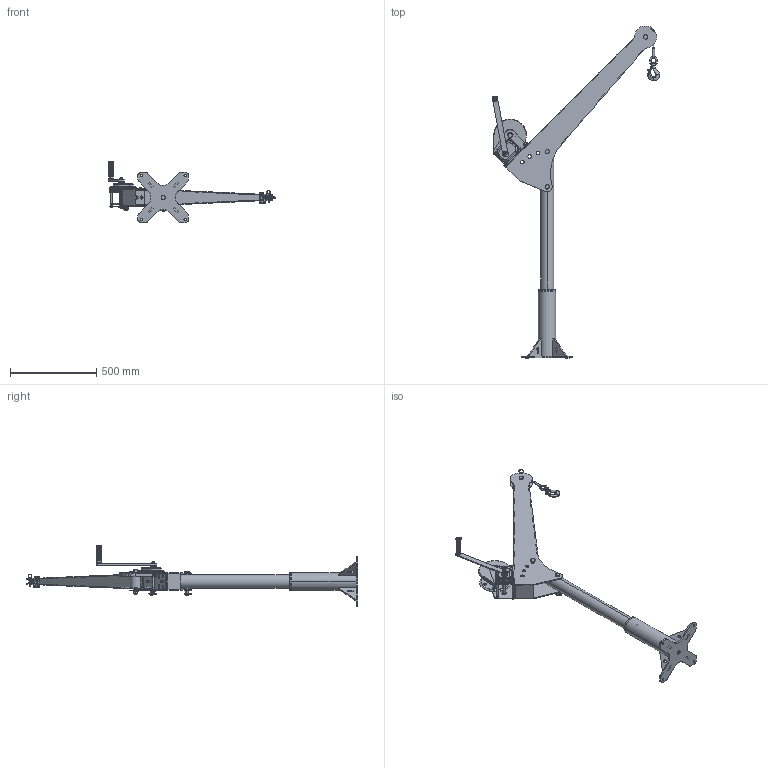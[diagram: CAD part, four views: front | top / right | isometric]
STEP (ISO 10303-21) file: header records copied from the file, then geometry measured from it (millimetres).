
FILE_DESCRIPTION (( 'STEP AP214' ), '1' );
FILE_NAME ('OZSS850DAV.STEP', '2026-05-13T14:00:37', ( '' ), ( '' ), 'SwSTEP 2.0', 'SolidWorks 2023', '' );
FILE_SCHEMA (( 'AUTOMOTIVE_DESIGN' ));
Length unit declared in the file: inch
Products named in the file (28): 366-0281; 260-0080; 260-0180; 306-01900-100_90170A205; 316-02500-150; 366-07500-188; OZ1500BWSS; 366-0290; 260-0281; 290-0390; 790-1400_35165T64; 236-03816-000_93560A160; OZPED2-SS_No base cap, No decals; 260-0280; 608-07500-075; 260-0081; 366-0380; 260-0000_POS 4; 366-0180; 366-0000_NO BASE CAP; 366-07500-475; 260-0282; OZSS850DAV; 390-0391; 290-0000; 236-05013-000_93560A180; 366-0080; 366-0280
Assembly tree (39 placements, depth 5):
  OZSS850DAV
    260-0000_POS 4
      260-0180
      260-0080
        260-0280
        260-0281  x2
        260-0081
          260-0282
          236-05013-000_93560A180  x3
          236-03816-000_93560A160  x4
      306-01900-100_90170A205  x3
      316-02500-150
      290-0000
        608-07500-075
        290-0390
      366-07500-475  x2
      366-07500-188
    790-1400_35165T64
    OZPED2-SS_No base cap, No decals
      366-0000_NO BASE CAP
        366-0080
          366-0280
          366-0180
          366-0380
          366-0281  x4
        390-0391
        366-0290
    OZ1500BWSS
Bounding box: 969.97 x 1919.45 x 355.8 mm (x, y, z)
Volume: 6573905.1 mm3; surface area: 2530460.9 mm2
Topology: 91 solids, 91 shells, 2951 faces, 7676 edges, 4937 vertices
Faces by surface type: cylinder 1101, plane 1034, cone 465, bspline 195, torus 122, sphere 34
Entity records: 99974 total; most frequent: CARTESIAN_POINT 38517, ORIENTED_EDGE 12632, DIRECTION 12409, EDGE_CURVE 6316, AXIS2_PLACEMENT_3D 4762, VERTEX_POINT 4072, LINE 2885, VECTOR 2885
